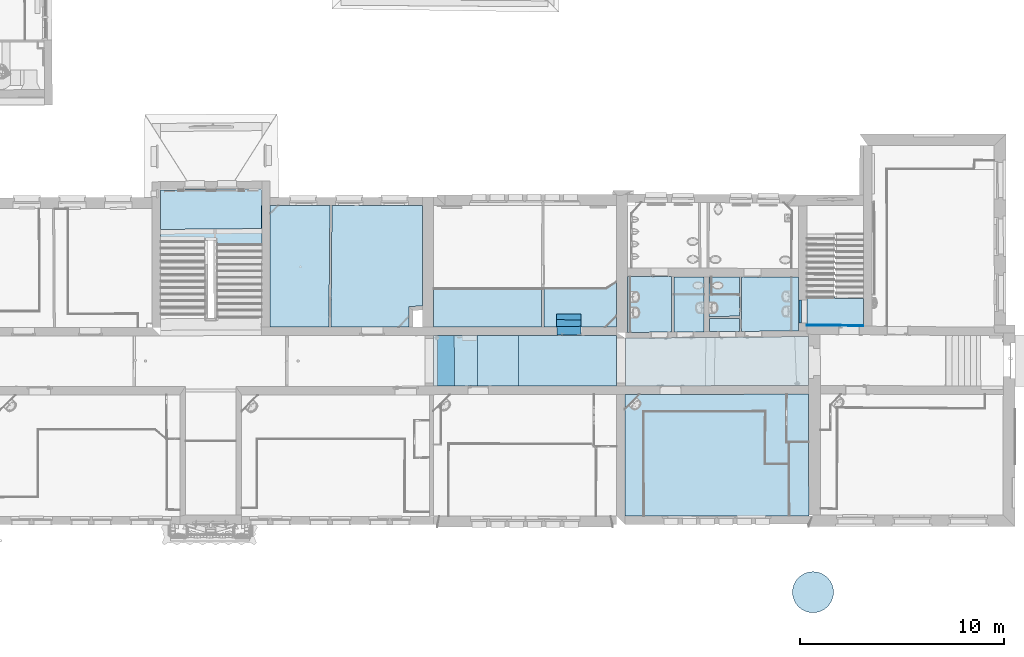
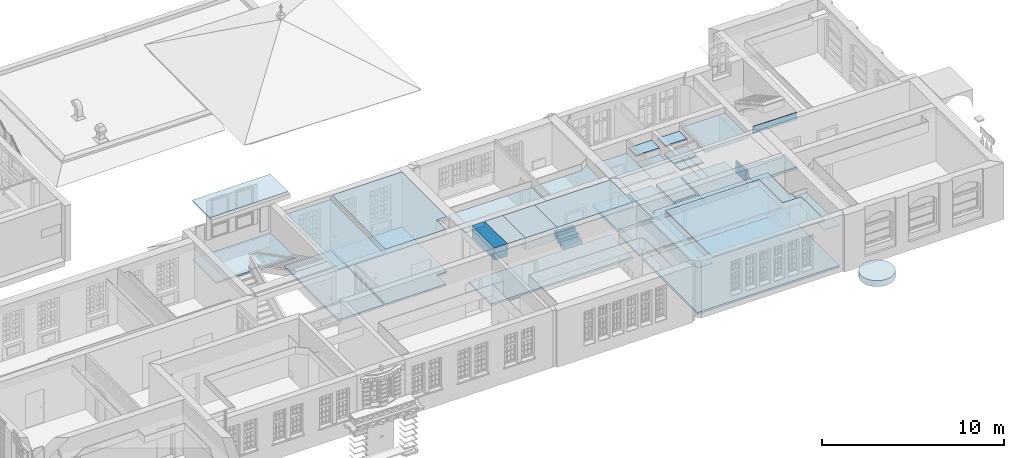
# One storey, part 12 of 158: 37 slabs.
"""IFC2X3 building model written with IfcOpenShell, lengths in metres."""

from ifc_helpers import new_model, entity, si_unit, converted_unit, derived_unit, money_unit, point, direction, frame, frame_2d, origin_with_axes, place, context, subcontext, project, spatial, polyline, circle_curve, parameter, trimmed, segment, composite_curve, outline, extrude, material, layer, layer_set, layer_usage, type_object, element, save


model = new_model("IFC2X3")

# Units and contexts
model_context = context("Model", 3, precision=1e-05, world=origin_with_axes(), true_north=direction((0.0, 1.0)))
body_context = subcontext(model_context, "Body", "Model", "MODEL_VIEW")
ifc_project = project(units=[si_unit("LENGTHUNIT", "METRE"), si_unit("AREAUNIT", "SQUARE_METRE"), si_unit("VOLUMEUNIT", "CUBIC_METRE"), converted_unit("PLANEANGLEUNIT", "DEGREE", entity("IfcPlaneAngleMeasure", 0.0174532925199), si_unit("PLANEANGLEUNIT", "RADIAN"), dimensions=[0, 0, 0, 0, 0, 0, 0]), money_unit("EUR"), converted_unit("TIMEUNIT", "Year", entity("IfcTimeMeasure", 31556926.0), si_unit("TIMEUNIT", "SECOND"), dimensions=[0, 0, 1, 0, 0, 0, 0]), si_unit("MASSUNIT", "GRAM", prefix="KILO"), si_unit("THERMODYNAMICTEMPERATUREUNIT", "DEGREE_CELSIUS"), si_unit("LUMINOUSINTENSITYUNIT", "LUMEN"), si_unit("ENERGYUNIT", "JOULE", prefix="MEGA"), derived_unit("THERMALCONDUCTANCEUNIT", [(si_unit("POWERUNIT", "WATT"), 1), (si_unit("LENGTHUNIT", "METRE"), -1), (si_unit("THERMODYNAMICTEMPERATUREUNIT", "KELVIN"), -1)]), derived_unit("SPECIFICHEATCAPACITYUNIT", [(si_unit("ENERGYUNIT", "JOULE"), 1), (si_unit("MASSUNIT", "GRAM", prefix="KILO"), -1), (si_unit("THERMODYNAMICTEMPERATUREUNIT", "KELVIN"), -1)]), derived_unit("MASSDENSITYUNIT", [(si_unit("MASSUNIT", "GRAM", prefix="KILO"), 1), (si_unit("VOLUMEUNIT", "CUBIC_METRE"), -1)])], contexts=[model_context])

# Site, building, storey
site_placement = place(None, origin_with_axes())
site = spatial("IfcSite", under=ifc_project, at=site_placement, Name="Gelände", CompositionType="ELEMENT")
building_placement = place(site_placement, origin_with_axes())
building = spatial("IfcBuilding", under=site, at=building_placement, Name="Gebäude", CompositionType="ELEMENT")
storey_placement = place(building_placement, origin_with_axes())
storey = spatial("IfcBuildingStorey", under=building, at=storey_placement, Name="ERDGESCHOSS", CompositionType="ELEMENT", Elevation=0.0)

# Slabs
ifc_material_1 = material(Name="05_ALLGEMEIN - TRAGENDE BAUTEILE")
ifc_layer_1 = layer(ifc_material_1, 0.03, ventilated="UNKNOWN")
ifc_layer_set_1 = layer_set([ifc_layer_1], Name="05_ALLGEMEIN - TRAGENDE BAUTEILE 0.03")
ifc_layer_usage_1 = layer_usage(ifc_layer_set_1, "AXIS3", "NEGATIVE", 0.03)
slab_type_1 = type_object("IfcSlabType", Name="05_ALLGEMEIN - TRAGENDE BAUTEILE 30", PredefinedType="NOTDEFINED")
slab_1_placement = place(storey_placement, frame((21.9802497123, 14.0316540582, 2.61), z_axis=(0.0, 0.0, 1.0), x_axis=(1.0, 0.0, 0.0)))
element("IfcSlab", 1, at=slab_1_placement, inside=storey, type_object=slab_type_1, material=ifc_layer_usage_1, Name="Belag-004", PredefinedType="NOTDEFINED", context=body_context, shape_type="SweptSolid", body=[
    extrude(outline(polyline([(0.0, 0.0), (-0.974729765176, -0.00682549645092), (-0.972453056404, -1.07772060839), (-0.967063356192, -3.6128444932), (0.0113714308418, -3.61221402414), (0.0, 0.0)])), origin_with_axes(), (0.0, 0.0, 1.0), 0.03),
])
ifc_material_2 = material(Name="01_ALLGEMEIN - BAUTEIL")
ifc_layer_2 = layer(ifc_material_2, 0.05, ventilated="UNKNOWN")
ifc_layer_set_2 = layer_set([ifc_layer_2], Name="01_ALLGEMEIN - BAUTEIL 0.05")
ifc_layer_usage_2 = layer_usage(ifc_layer_set_2, "AXIS3", "NEGATIVE", 0.05)
slab_type_2 = type_object("IfcSlabType", Name="01_ALLGEMEIN - BAUTEIL 50", PredefinedType="NOTDEFINED")
slab_2_placement = place(storey_placement, frame((12.962709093, 15.632430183, 2.86), z_axis=(0.0, 0.0, 1.0), x_axis=(1.0, 0.0, 0.0)))
element("IfcSlab", 2, at=slab_2_placement, inside=storey, type_object=slab_type_2, material=ifc_layer_usage_2, Name="Belag-004", PredefinedType="NOTDEFINED", context=body_context, shape_type="SweptSolid", body=[
    extrude(outline(polyline([(0.0, 0.0), (0.00476264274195, -5.2188052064), (0.938595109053, -5.21820340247), (0.924874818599, -0.0989423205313), (6.87745584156, -0.0890167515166), (6.85921746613, -2.67207263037), (8.04508757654, -2.67849670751), (8.04281091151, -1.60760159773), (7.91659896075, -1.60848548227), (7.92722859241, 0.765762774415), (0.730000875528, 0.75412518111), (0.0, 0.0)])), origin_with_axes(), (0.0, 0.0, 1.0), 0.05),
])
ifc_layer_usage_3 = layer_usage(ifc_layer_set_2, "AXIS3", "NEGATIVE", 0.05)
slab_3_placement = place(storey_placement, frame((13.8875839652, 15.5334878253, 3.29), z_axis=(0.0, 0.0, 1.0), x_axis=(1.0, 0.0, 0.0)))
element("IfcSlab", 3, at=slab_3_placement, inside=storey, type_object=slab_type_2, material=ifc_layer_usage_3, Name="Belag-004", PredefinedType="NOTDEFINED", context=body_context, shape_type="SweptSolid", body=[
    extrude(outline(polyline([(0.0, 0.0), (0.0137201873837, -5.11926109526), (7.12560237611, -5.11467826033), (7.12021270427, -2.57955437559), (5.93434262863, -2.57313021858), (5.95258097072, 0.00992562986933), (0.0, 0.0)])), origin_with_axes(), (0.0, 0.0, 1.0), 0.05),
])
ifc_layer_3 = layer(ifc_material_1, 0.32, ventilated="UNKNOWN")
ifc_layer_set_3 = layer_set([ifc_layer_3], Name="05_ALLGEMEIN - TRAGENDE BAUTEILE 0.32")
ifc_layer_usage_4 = layer_usage(ifc_layer_set_3, "AXIS3", "NEGATIVE", 0.32)
slab_type_3 = type_object("IfcSlabType", Name="05_ALLGEMEIN - TRAGENDE BAUTEILE 320", PredefinedType="NOTDEFINED")
slab_4_placement = place(storey_placement, frame((12.5468081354, 19.281202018, 3.28), z_axis=(0.0, 0.0, 1.0), x_axis=(1.0, 0.0, 0.0)))
element("IfcSlab", 4, at=slab_4_placement, inside=storey, type_object=slab_type_3, material=ifc_layer_usage_4, Name="Belag-004", PredefinedType="NOTDEFINED", context=body_context, shape_type="SweptSolid", body=[
    extrude(outline(polyline([(0.0, 0.0), (-4.81062728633, -0.00140048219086), (-4.8091364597, -2.48427514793), (0.00120351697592, -2.47649699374), (0.0, 0.0)])), origin_with_axes(), (0.0, 0.0, 1.0), 0.32),
])
ifc_layer_usage_5 = layer_usage(ifc_layer_set_3, "AXIS3", "NEGATIVE", 0.32)
slab_5_placement = place(storey_placement, frame((5.72062720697, 19.2792148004, 3.28), z_axis=(0.0, 0.0, 1.0), x_axis=(1.0, 0.0, 0.0)))
element("IfcSlab", 5, at=slab_5_placement, inside=storey, type_object=slab_type_3, material=ifc_layer_usage_5, Name="Belag-004", PredefinedType="NOTDEFINED", context=body_context, shape_type="SweptSolid", body=[
    extrude(outline(polyline([(0.0, 0.0), (-1.14277152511, -0.000332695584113), (-1.13752916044, -2.48738874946), (0.00454339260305, -2.48554205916), (0.0, 0.0)])), origin_with_axes(), (0.0, 0.0, 1.0), 0.32),
])
ifc_layer_4 = layer(ifc_material_1, 0.37, ventilated="UNKNOWN")
ifc_layer_set_4 = layer_set([ifc_layer_4], Name="05_ALLGEMEIN - TRAGENDE BAUTEILE 0.37")
ifc_layer_usage_6 = layer_usage(ifc_layer_set_4, "AXIS3", "NEGATIVE", 0.37)
slab_type_4 = type_object("IfcSlabType", Name="05_ALLGEMEIN - TRAGENDE BAUTEILE 370", PredefinedType="NOTDEFINED")
slab_6_placement = place(storey_placement, frame((-1.42464354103, 25.6654460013, 3.23), z_axis=(0.0, 0.0, 1.0), x_axis=(1.0, 0.0, 0.0)))
element("IfcSlab", 6, at=slab_6_placement, inside=storey, type_object=slab_type_4, material=ifc_layer_usage_6, Name="Belag-006", PredefinedType="NOTDEFINED", context=body_context, shape_type="SweptSolid", body=[
    extrude(outline(polyline([(0.0, 0.0), (-0.0531381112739, -5.97371125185), (3.78036971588, -5.9725952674), (3.77214632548, -4.95663853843), (4.44078514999, -4.94138410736), (4.44207747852, 0.00619752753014), (0.0, 0.0)])), origin_with_axes(), (0.0, 0.0, 1.0), 0.37),
])
ifc_layer_5 = layer(ifc_material_1, 0.82, ventilated="UNKNOWN")
ifc_layer_set_5 = layer_set([ifc_layer_5], Name="05_ALLGEMEIN - TRAGENDE BAUTEILE 0.82")
ifc_layer_usage_7 = layer_usage(ifc_layer_set_5, "AXIS3", "NEGATIVE", 0.82)
slab_type_5 = type_object("IfcSlabType", Name="05_ALLGEMEIN - TRAGENDE BAUTEILE 820", PredefinedType="NOTDEFINED")
slab_7_placement = place(storey_placement, frame((4.57785569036, 19.2788821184, 2.78), z_axis=(0.0, 0.0, 1.0), x_axis=(1.0, 0.0, 0.0)))
element("IfcSlab", 7, at=slab_7_placement, inside=storey, type_object=slab_type_5, material=ifc_layer_usage_7, Name="Belag-005", PredefinedType="NOTDEFINED", context=body_context, shape_type="SweptSolid", body=[
    extrude(outline(polyline([(0.0, 0.0), (-0.813372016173, -0.000236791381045), (-0.812640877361, -2.48837855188), (0.00524237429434, -2.48705606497), (0.0, 0.0)])), origin_with_axes(), (0.0, 0.0, 1.0), 0.82),
])
ifc_layer_usage_8 = layer_usage(ifc_layer_set_5, "AXIS3", "NEGATIVE", 0.82)
slab_8_placement = place(storey_placement, frame((5.72062720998, 19.2792147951, 2.78), z_axis=(0.0, 0.0, 1.0), x_axis=(1.0, 0.0, 0.0)))
element("IfcSlab", 8, at=slab_8_placement, inside=storey, type_object=slab_type_5, material=ifc_layer_usage_8, Name="Belag-005", PredefinedType="NOTDEFINED", context=body_context, shape_type="SweptSolid", body=[
    extrude(outline(polyline([(0.0, 0.0), (0.00454338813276, -2.485542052), (2.0170444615, -2.48228791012), (2.01555364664, 0.000586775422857), (0.0, 0.0)])), origin_with_axes(), (0.0, 0.0, 1.0), 0.82),
])
ifc_layer_6 = layer(ifc_material_1, 0.18, ventilated="UNKNOWN")
ifc_layer_set_6 = layer_set([ifc_layer_6], Name="05_ALLGEMEIN - TRAGENDE BAUTEILE 0.18")
ifc_layer_usage_9 = layer_usage(ifc_layer_set_6, "AXIS3", "NEGATIVE", 0.180000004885)
slab_type_6 = type_object("IfcSlabType", Name="05_ALLGEMEIN - TRAGENDE BAUTEILE 180", PredefinedType="NOTDEFINED")
slab_9_placement = place(storey_placement, frame((15.2507156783, 22.1650732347, -0.03), z_axis=(0.0, 0.0, 1.0), x_axis=(1.0, 0.0, 0.0)))
element("IfcSlab", 9, at=slab_9_placement, inside=storey, type_object=slab_type_6, material=ifc_layer_usage_9, Name="Belag-003", PredefinedType="NOTDEFINED", context=body_context, shape_type="SweptSolid", body=[
    extrude(outline(polyline([(0.0, 0.0), (-2.16106568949, 0.00861907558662), (-2.16042918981, -2.73549579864), (0.00536611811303, -2.71578927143), (0.0, 0.0)])), frame((0.0, 0.0, -0.180000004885), z_axis=(0.0, 0.0, 1.0), x_axis=(1.0, 0.0, 0.0)), (0.0, 0.0, 1.0), 0.180000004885),
])
ifc_layer_usage_10 = layer_usage(ifc_layer_set_6, "AXIS3", "NEGATIVE", 0.180000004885)
slab_10_placement = place(storey_placement, frame((16.8445187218, 22.1587166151, -0.03), z_axis=(0.0, 0.0, 1.0), x_axis=(1.0, 0.0, 0.0)))
element("IfcSlab", 10, at=slab_10_placement, inside=storey, type_object=slab_type_6, material=ifc_layer_usage_10, Name="Belag-004", PredefinedType="NOTDEFINED", context=body_context, shape_type="SweptSolid", body=[
    extrude(outline(polyline([(0.0, 0.0), (-1.48183315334, 0.00591005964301), (-1.47646993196, -2.70841385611), (0.00905494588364, -2.69489708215), (0.0, 0.0)])), frame((0.0, 0.0, -0.180000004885), z_axis=(0.0, 0.0, 1.0), x_axis=(1.0, 0.0, 0.0)), (0.0, 0.0, 1.0), 0.180000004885),
])
ifc_layer_usage_11 = layer_usage(ifc_layer_set_6, "AXIS3", "NEGATIVE", 0.180000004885)
slab_11_placement = place(storey_placement, frame((18.6754865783, 19.4803970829, -0.03), z_axis=(0.0, 0.0, 1.0), x_axis=(1.0, 0.0, 0.0)))
element("IfcSlab", 11, at=slab_11_placement, inside=storey, type_object=slab_type_6, material=ifc_layer_usage_11, Name="Belag-005", PredefinedType="NOTDEFINED", context=body_context, shape_type="SweptSolid", body=[
    extrude(outline(polyline([(0.0, 0.0), (2.80840213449, 0.0255536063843), (2.81183693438, 2.65980246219), (0.00871867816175, 2.67098224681), (0.0, 0.0)])), frame((0.0, 0.0, -0.180000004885), z_axis=(0.0, 0.0, 1.0), x_axis=(1.0, 0.0, 0.0)), (0.0, 0.0, 1.0), 0.180000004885),
])
ifc_layer_usage_12 = layer_usage(ifc_layer_set_6, "AXIS3", "NEGATIVE", 0.180000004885)
slab_12_placement = place(storey_placement, frame((17.0945234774, 22.1577195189, -0.03), z_axis=(0.0, 0.0, 1.0), x_axis=(1.0, 0.0, 0.0)))
element("IfcSlab", 12, at=slab_12_placement, inside=storey, type_object=slab_type_6, material=ifc_layer_usage_12, Name="Belag-006", PredefinedType="NOTDEFINED", context=body_context, shape_type="SweptSolid", body=[
    extrude(outline(polyline([(0.0, 0.0), (0.00652252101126, -1.9412129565), (1.48340727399, -1.92837856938), (1.48968255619, -0.00594134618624), (0.0, 0.0)])), frame((0.0, 0.0, -0.180000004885), z_axis=(0.0, 0.0, 1.0), x_axis=(1.0, 0.0, 0.0)), (0.0, 0.0, 1.0), 0.180000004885),
])
ifc_layer_usage_13 = layer_usage(ifc_layer_set_6, "AXIS3", "NEGATIVE", 0.180000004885)
slab_13_placement = place(storey_placement, frame((18.5775652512, 20.1173647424, -0.03), z_axis=(0.0, 0.0, 1.0), x_axis=(1.0, 0.0, 0.0)))
element("IfcSlab", 13, at=slab_13_placement, inside=storey, type_object=slab_type_6, material=ifc_layer_usage_13, Name="Belag-007", PredefinedType="NOTDEFINED", context=body_context, shape_type="SweptSolid", body=[
    extrude(outline(polyline([(0.0, 0.0), (-1.47614302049, -0.012827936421), (-1.47399783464, -0.651270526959), (-0.00208216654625, -0.637877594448), (0.0, 0.0)])), frame((0.0, 0.0, -0.180000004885), z_axis=(0.0, 0.0, 1.0), x_axis=(1.0, 0.0, 0.0)), (0.0, 0.0, 1.0), 0.180000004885),
])
ifc_layer_7 = layer(ifc_material_1, 0.155000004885, ventilated="UNKNOWN")
ifc_layer_set_7 = layer_set([ifc_layer_7], Name="05_ALLGEMEIN - TRAGENDE BAUTEILE 0.155")
ifc_layer_usage_14 = layer_usage(ifc_layer_set_7, "AXIS3", "NEGATIVE", 0.155000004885)
slab_type_7 = type_object("IfcSlabType", Name="05_ALLGEMEIN - TRAGENDE BAUTEILE 155", PredefinedType="NOTDEFINED")
slab_14_placement = place(storey_placement, frame((21.8942238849, 19.762736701, -0.055), z_axis=(0.0, 0.0, 1.0), x_axis=(1.0, 0.0, 0.0)))
element("IfcSlab", 14, at=slab_14_placement, inside=storey, type_object=slab_type_7, material=ifc_layer_usage_14, Name="Belag-003", PredefinedType="NOTDEFINED", context=body_context, shape_type="SweptSolid", body=[
    extrude(outline(polyline([(0.0, 0.0), (2.77763764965, -0.0233686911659), (2.77783908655, 1.34125444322), (1.3888431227, 1.33075723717), (1.38951554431, 1.40848259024), (0.00183888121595, 1.41029198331), (0.0, 0.0)])), frame((0.0, 0.0, -0.155000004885), z_axis=(0.0, 0.0, 1.0), x_axis=(1.0, 0.0, 0.0)), (0.0, 0.0, 1.0), 0.155000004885),
])
ifc_layer_8 = layer(ifc_material_1, 0.14, ventilated="UNKNOWN")
ifc_layer_set_8 = layer_set([ifc_layer_8], Name="05_ALLGEMEIN - TRAGENDE BAUTEILE 0.14")
ifc_layer_usage_15 = layer_usage(ifc_layer_set_8, "AXIS3", "NEGATIVE", 0.14)
slab_type_8 = type_object("IfcSlabType", Name="05_ALLGEMEIN - TRAGENDE BAUTEILE 140", PredefinedType="NOTDEFINED")
slab_15_placement = place(storey_placement, frame((21.9638840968, 19.2303066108, -0.07), z_axis=(0.0, 0.0, 1.0), x_axis=(1.0, 0.0, 0.0)))
element("IfcSlab", 15, at=slab_15_placement, inside=storey, type_object=slab_type_8, material=ifc_layer_usage_15, Name="Belag-003", PredefinedType="NOTDEFINED", context=body_context, shape_type="SweptSolid", body=[
    extrude(outline(polyline([(0.0, 0.0), (-8.98612700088, -0.0817646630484), (-8.98498825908, -2.42490489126), (0.00758790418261, -2.41036418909), (0.0, 0.0)])), frame((0.0, 0.0, -0.14), z_axis=(0.0, 0.0, 1.0), x_axis=(1.0, 0.0, 0.0)), (0.0, 0.0, 1.0), 0.14),
])
ifc_layer_usage_16 = layer_usage(ifc_layer_set_8, "AXIS3", "NEGATIVE", 0.14)
slab_16_placement = place(storey_placement, frame((12.5468081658, 19.2812020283, -0.07), z_axis=(0.0, 0.0, 1.0), x_axis=(1.0, 0.0, 0.0)))
element("IfcSlab", 16, at=slab_16_placement, inside=storey, type_object=slab_type_8, material=ifc_layer_usage_16, Name="Belag-004", PredefinedType="NOTDEFINED", context=body_context, shape_type="SweptSolid", body=[
    extrude(outline(polyline([(0.0, 0.0), (-8.98461540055, -0.0026155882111), (-8.98060364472, -2.49102025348), (0.00120348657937, -2.47649700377), (0.0, 0.0)])), frame((0.0, 0.0, -0.14), z_axis=(0.0, 0.0, 1.0), x_axis=(1.0, 0.0, 0.0)), (0.0, 0.0, 1.0), 0.14),
])
ifc_layer_9 = layer(ifc_material_1, 0.830188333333, ventilated="UNKNOWN")
ifc_layer_set_9 = layer_set([ifc_layer_9], Name="05_ALLGEMEIN - TRAGENDE BAUTEILE 0.830188")
ifc_layer_usage_17 = layer_usage(ifc_layer_set_9, "AXIS3", "NEGATIVE", 0.830188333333)
slab_type_9 = type_object("IfcSlabType", Name="05_ALLGEMEIN - TRAGENDE BAUTEILE 830", PredefinedType="NOTDEFINED")
slab_17_placement = place(storey_placement, frame((21.4996975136, 21.0243434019, 0.675188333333), z_axis=(0.0, 0.0, 1.0), x_axis=(1.0, 0.0, 0.0)))
element("IfcSlab", 17, at=slab_17_placement, inside=storey, type_object=slab_type_9, material=ifc_layer_usage_17, Name="Belag-003", PredefinedType="NOTDEFINED", context=body_context, shape_type="SweptSolid", body=[
    extrude(outline(polyline([(0.0, 0.0), (-0.00147217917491, -1.12905742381), (0.139275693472, -1.12924094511), (0.138257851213, -0.000180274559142), (0.0, 0.0)])), frame((0.0, 0.0, -0.830188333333), z_axis=(0.0, 0.0, 1.0), x_axis=(1.0, 0.0, 0.0)), (0.0, 0.0, 1.0), 0.830188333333),
])
ifc_layer_10 = layer(ifc_material_1, 0.1, ventilated="UNKNOWN")
ifc_layer_set_10 = layer_set([ifc_layer_10], Name="05_ALLGEMEIN - TRAGENDE BAUTEILE 0.1")
ifc_layer_usage_18 = layer_usage(ifc_layer_set_10, "AXIS3", "NEGATIVE", 0.1)
slab_type_10 = type_object("IfcSlabType", Name="05_ALLGEMEIN - TRAGENDE BAUTEILE 100", PredefinedType="NOTDEFINED")
slab_18_placement = place(storey_placement, frame((8.97528230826, 21.6021981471, 2.885), z_axis=(0.0, 0.0, 1.0), x_axis=(1.0, 0.0, 0.0)))
element("IfcSlab", 18, at=slab_18_placement, inside=storey, type_object=slab_type_10, material=ifc_layer_usage_18, Name="Belag-004", PredefinedType="NOTDEFINED", context=body_context, shape_type="SweptSolid", body=[
    extrude(outline(polyline([(0.0, 0.0), (-0.00033825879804, -1.90742037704), (3.56494241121, -1.90638243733), (3.56442591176, 0.320481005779), (3.05242019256, 0.00509624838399), (0.0, 0.0)])), origin_with_axes(), (0.0, 0.0, 1.0), 0.1),
])
ifc_layer_usage_19 = layer_usage(ifc_layer_set_10, "AXIS3", "NEGATIVE", 0.1)
slab_19_placement = place(storey_placement, frame((3.5663674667, 21.5886652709, 2.875), z_axis=(0.0, 0.0, 1.0), x_axis=(1.0, 0.0, 0.0)))
element("IfcSlab", 19, at=slab_19_placement, inside=storey, type_object=slab_type_10, material=ifc_layer_usage_19, Name="Belag-004", PredefinedType="NOTDEFINED", context=body_context, shape_type="SweptSolid", body=[
    extrude(outline(polyline([(0.0, 0.0), (-0.000495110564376, -1.89546220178), (5.30857657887, -1.89391658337), (5.3089129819, 0.00312145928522), (0.0, 0.0)])), origin_with_axes(), (0.0, 0.0, 1.0), 0.1),
])
ifc_layer_usage_20 = layer_usage(ifc_layer_set_10, "AXIS3", "NEGATIVE", 0.1)
slab_20_placement = place(storey_placement, frame((15.2507156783, 22.1650732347, 2.6), z_axis=(0.0, 0.0, 1.0), x_axis=(1.0, 0.0, 0.0)))
element("IfcSlab", 20, at=slab_20_placement, inside=storey, type_object=slab_type_10, material=ifc_layer_usage_20, Name="Belag-004", PredefinedType="NOTDEFINED", context=body_context, shape_type="SweptSolid", body=[
    extrude(outline(polyline([(0.0, 0.0), (-2.02476242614, 0.00807545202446), (-2.01645687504, -2.73418579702), (0.00536611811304, -2.71578927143), (0.0, 0.0)])), origin_with_axes(), (0.0, 0.0, 1.0), 0.1),
])
ifc_layer_usage_21 = layer_usage(ifc_layer_set_10, "AXIS3", "NEGATIVE", 0.1)
slab_21_placement = place(storey_placement, frame((18.6842052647, 22.1513793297, 3.13), z_axis=(0.0, 0.0, 1.0), x_axis=(1.0, 0.0, 0.0)))
element("IfcSlab", 21, at=slab_21_placement, inside=storey, type_object=slab_type_10, material=ifc_layer_usage_21, Name="Belag-004", PredefinedType="NOTDEFINED", context=body_context, shape_type="SweptSolid", body=[
    extrude(outline(polyline([(0.0, 0.0), (-0.00871868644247, -2.67098224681), (2.79968344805, -2.64542864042), (2.80311824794, -0.0111797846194), (0.0, 0.0)])), origin_with_axes(), (0.0, 0.0, 1.0), 0.1),
])
ifc_layer_usage_22 = layer_usage(ifc_layer_set_10, "AXIS3", "NEGATIVE", 0.1)
slab_22_placement = place(storey_placement, frame((15.3626855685, 22.1646266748, 2.92), z_axis=(0.0, 0.0, 1.0), x_axis=(1.0, 0.0, 0.0)))
element("IfcSlab", 22, at=slab_22_placement, inside=storey, type_object=slab_type_10, material=ifc_layer_usage_22, Name="Belag-005", PredefinedType="NOTDEFINED", context=body_context, shape_type="SweptSolid", body=[
    extrude(outline(polyline([(0.0, 0.0), (0.00168878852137, -0.854694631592), (1.4846914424, -0.856585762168), (1.48183314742, -0.00591005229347), (0.0, 0.0)])), origin_with_axes(), (0.0, 0.0, 1.0), 0.1),
])
ifc_layer_usage_23 = layer_usage(ifc_layer_set_10, "AXIS3", "NEGATIVE", 0.1)
slab_23_placement = place(storey_placement, frame((-4.46252305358, 25.6612076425, 3.24), z_axis=(0.0, 0.0, 1.0), x_axis=(1.0, 0.0, 0.0)))
element("IfcSlab", 23, at=slab_23_placement, inside=storey, type_object=slab_type_10, material=ifc_layer_usage_23, Name="Belag-005", PredefinedType="NOTDEFINED", context=body_context, shape_type="SweptSolid", body=[
    extrude(outline(polyline([(0.0, 0.0), (-0.0026324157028, -5.97034258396), (2.88473723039, -5.96950199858), (2.93787429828, 0.00409885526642), (0.0, 0.0)])), origin_with_axes(), (0.0, 0.0, 1.0), 0.1),
])
ifc_layer_usage_24 = layer_usage(ifc_layer_set_10, "AXIS3", "NEGATIVE", 0.1)
slab_24_placement = place(storey_placement, frame((-9.84215545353, 26.4304836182, 1.81), z_axis=(0.0, 0.0, 1.0), x_axis=(1.0, 0.0, 0.0)))
element("IfcSlab", 24, at=slab_24_placement, inside=storey, type_object=slab_type_10, material=ifc_layer_usage_24, Name="Belag-005", PredefinedType="NOTDEFINED", context=body_context, shape_type="SweptSolid", body=[
    extrude(outline(polyline([(0.0, 0.0), (0.000245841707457, -2.61162387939), (2.21557330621, -2.60759612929), (2.21530787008, -2.44940877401), (2.78271909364, -2.45595198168), (2.78377425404, -2.71492820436), (4.96877405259, -2.7158916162), (4.96963206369, -0.769847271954), (4.96448754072, -0.769855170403), (4.96392944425, -0.369855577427), (4.96392944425, 0.0264165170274), (0.0, 0.0)])), frame((0.0, 0.0, -0.1), z_axis=(0.0, 0.0, 1.0), x_axis=(1.0, 0.0, 0.0)), (0.0, 0.0, 1.0), 0.1),
])
ifc_layer_usage_25 = layer_usage(ifc_layer_set_10, "AXIS3", "NEGATIVE", 0.1)
slab_25_placement = place(storey_placement, frame((-4.87822600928, 26.4569001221, 5.64), z_axis=(0.0, 0.0, 1.0), x_axis=(1.0, 0.0, 0.0)))
element("IfcSlab", 25, at=slab_25_placement, inside=storey, type_object=slab_type_10, material=ifc_layer_usage_25, Name="Belag-005", PredefinedType="NOTDEFINED", context=body_context, shape_type="SweptSolid", body=[
    extrude(outline(polyline([(0.0, 0.0), (-4.96392944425, -0.0264165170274), (-4.96374649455, -1.97019454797), (0.000204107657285, -1.92692631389), (0.000702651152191, -0.796271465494), (0.000558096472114, -0.79627168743), (0.0, -0.396272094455), (0.0, 0.0)])), origin_with_axes(), (0.0, 0.0, 1.0), 0.1),
])
ifc_layer_usage_26 = layer_usage(ifc_layer_set_10, "AXIS3", "NEGATIVE", 0.1)
slab_26_placement = place(storey_placement, frame((16.847377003, 21.3080409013, 2.46), z_axis=(0.0, 0.0, 1.0), x_axis=(1.0, 0.0, 0.0)))
element("IfcSlab", 26, at=slab_26_placement, inside=storey, type_object=slab_type_10, material=ifc_layer_usage_26, Name="Belag-006", PredefinedType="NOTDEFINED", context=body_context, shape_type="SweptSolid", body=[
    extrude(outline(polyline([(0.0, 0.0), (-1.48300264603, 0.00189114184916), (-1.47932821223, -1.85773814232), (0.00619665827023, -1.84422138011), (0.0, 0.0)])), origin_with_axes(), (0.0, 0.0, 1.0), 0.1),
])
ifc_layer_usage_27 = layer_usage(ifc_layer_set_10, "AXIS3", "NEGATIVE", 0.1)
slab_27_placement = place(storey_placement, frame((17.2191100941, 21.3079030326, 2.46), z_axis=(0.0, 0.0, 1.0), x_axis=(1.0, 0.0, 0.0)))
element("IfcSlab", 27, at=slab_27_placement, inside=storey, type_object=slab_type_10, material=ifc_layer_usage_27, Name="Belag-007", PredefinedType="NOTDEFINED", context=body_context, shape_type="SweptSolid", body=[
    extrude(outline(polyline([(0.0, 0.0), (0.000755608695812, -0.0509412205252), (-0.121579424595, -0.0451734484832), (-0.118064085, -1.09139647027), (1.35882067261, -1.07856207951), (1.36230730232, -0.0104280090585), (0.0, 0.0)])), origin_with_axes(), (0.0, 0.0, 1.0), 0.1),
])
ifc_layer_usage_28 = layer_usage(ifc_layer_set_10, "AXIS3", "NEGATIVE", 0.1)
slab_28_placement = place(storey_placement, frame((18.5775652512, 20.1173647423, 2.46), z_axis=(0.0, 0.0, 1.0), x_axis=(1.0, 0.0, 0.0)))
element("IfcSlab", 28, at=slab_28_placement, inside=storey, type_object=slab_type_10, material=ifc_layer_usage_28, Name="Belag-007", PredefinedType="NOTDEFINED", context=body_context, shape_type="SweptSolid", body=[
    extrude(outline(polyline([(0.0, 0.0), (-1.47614302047, -0.0128279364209), (-1.47399783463, -0.651270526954), (-0.00208216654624, -0.637877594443), (0.0, 0.0)])), origin_with_axes(), (0.0, 0.0, 1.0), 0.1),
])
ifc_layer_usage_29 = layer_usage(ifc_layer_set_10, "AXIS3", "NEGATIVE", 0.1)
slab_29_placement = place(storey_placement, frame((17.2152791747, 22.1572379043, 2.92), z_axis=(0.0, 0.0, 1.0), x_axis=(1.0, 0.0, 0.0)))
element("IfcSlab", 29, at=slab_29_placement, inside=storey, type_object=slab_type_10, material=ifc_layer_usage_29, Name="Belag-007", PredefinedType="NOTDEFINED", context=body_context, shape_type="SweptSolid", body=[
    extrude(outline(polyline([(0.0, 0.0), (0.00383091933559, -0.849334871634), (1.36613822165, -0.859762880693), (1.36892685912, -0.00545974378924), (0.0, 0.0)])), origin_with_axes(), (0.0, 0.0, 1.0), 0.1),
])
ifc_layer_11 = layer(ifc_material_1, 0.13, ventilated="UNKNOWN")
ifc_layer_set_11 = layer_set([ifc_layer_11], Name="05_ALLGEMEIN - TRAGENDE BAUTEILE 0.13")
ifc_layer_usage_30 = layer_usage(ifc_layer_set_11, "AXIS3", "NEGATIVE", 0.13)
slab_type_11 = type_object("IfcSlabType", Name="05_ALLGEMEIN - TRAGENDE BAUTEILE 130", PredefinedType="NOTDEFINED")
slab_30_placement = place(storey_placement, frame((12.9620219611, 16.3853738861, -0.08), z_axis=(0.0, 0.0, 1.0), x_axis=(1.0, 0.0, 0.0)))
element("IfcSlab", 30, at=slab_30_placement, inside=storey, type_object=slab_type_11, material=ifc_layer_usage_30, Name="Belag-003", PredefinedType="NOTDEFINED", context=body_context, shape_type="SweptSolid", body=[
    extrude(outline(polyline([(0.0, 0.0), (0.00544978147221, -5.97174890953), (9.02959919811, -5.96593382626), (9.01077221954, 0.0145700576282), (0.0, 0.0)])), frame((0.0, 0.0, -0.13), z_axis=(0.0, 0.0, 1.0), x_axis=(1.0, 0.0, 0.0)), (0.0, 0.0, 1.0), 0.13),
])
ifc_layer_usage_31 = layer_usage(ifc_layer_set_11, "AXIS3", "NEGATIVE", 0.13)
slab_31_placement = place(storey_placement, frame((-4.4625230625, 25.6612076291, -0.08), z_axis=(0.0, 0.0, 1.0), x_axis=(1.0, 0.0, 0.0)))
element("IfcSlab", 31, at=slab_31_placement, inside=storey, type_object=slab_type_11, material=ifc_layer_usage_31, Name="Belag-005", PredefinedType="NOTDEFINED", context=body_context, shape_type="SweptSolid", body=[
    extrude(outline(polyline([(0.0, 0.0), (-0.0026324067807, -5.97034257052), (2.88473719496, -5.96950199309), (2.93787429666, 0.00409886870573), (0.0, 0.0)])), frame((0.0, 0.0, -0.13), z_axis=(0.0, 0.0, 1.0), x_axis=(1.0, 0.0, 0.0)), (0.0, 0.0, 1.0), 0.13),
])
ifc_layer_usage_32 = layer_usage(ifc_layer_set_11, "AXIS3", "NEGATIVE", 0.13)
slab_32_placement = place(storey_placement, frame((-1.42464356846, 25.6654460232, -0.08), z_axis=(0.0, 0.0, 1.0), x_axis=(1.0, 0.0, 0.0)))
element("IfcSlab", 32, at=slab_32_placement, inside=storey, type_object=slab_type_11, material=ifc_layer_usage_32, Name="Belag-006", PredefinedType="NOTDEFINED", context=body_context, shape_type="SweptSolid", body=[
    extrude(outline(polyline([(0.0, 0.0), (-0.0531380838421, -5.97371127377), (3.78036973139, -5.97259525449), (3.77214632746, -4.9566385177), (4.44078516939, -4.94138412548), (4.4420774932, 0.0061975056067), (0.0, 0.0)])), frame((0.0, 0.0, -0.13), z_axis=(0.0, 0.0, 1.0), x_axis=(1.0, 0.0, 0.0)), (0.0, 0.0, 1.0), 0.13),
])
ifc_layer_12 = layer(ifc_material_1, 0.48, ventilated="UNKNOWN")
ifc_layer_set_12 = layer_set([ifc_layer_12], Name="05_ALLGEMEIN - TRAGENDE BAUTEILE 0.48")
ifc_layer_usage_33 = layer_usage(ifc_layer_set_12, "AXIS3", "NEGATIVE", 0.48)
slab_type_12 = type_object("IfcSlabType", Name="05_ALLGEMEIN - TRAGENDE BAUTEILE 480", PredefinedType="NOTDEFINED")
slab_33_placement = place(storey_placement, frame((21.8942864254, 19.810711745, 3.12), z_axis=(0.0, 0.0, 1.0), x_axis=(1.0, 0.0, 0.0)))
element("IfcSlab", 33, at=slab_33_placement, inside=storey, type_object=slab_type_12, material=ifc_layer_usage_33, Name="Belag-004", PredefinedType="NOTDEFINED", context=body_context, shape_type="SweptSolid", body=[
    extrude(outline(polyline([(0.0, 0.0), (-6.25405432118e-05, -0.0479750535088), (2.77757510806, -0.0713437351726), (2.77758193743, -0.0250856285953), (0.0, 0.0)])), origin_with_axes(), (0.0, 0.0, 1.0), 0.48),
])
ifc_layer_13 = layer(ifc_material_1, 0.315, ventilated="UNKNOWN")
ifc_layer_set_13 = layer_set([ifc_layer_13], Name="05_ALLGEMEIN - TRAGENDE BAUTEILE 0.315")
ifc_layer_usage_34 = layer_usage(ifc_layer_set_13, "AXIS3", "NEGATIVE", 0.315)
slab_type_13 = type_object("IfcSlabType", Name="05_ALLGEMEIN - TRAGENDE BAUTEILE 315", PredefinedType="NOTDEFINED")
slab_34_placement = place(storey_placement, frame((10.7974244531, 19.7343368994, 0.145), z_axis=(0.0, 0.0, 1.0), x_axis=(1.0, 0.0, 0.0)))
element("IfcSlab", 34, at=slab_34_placement, inside=storey, type_object=slab_type_13, material=ifc_layer_usage_34, Name="Belag-008", PredefinedType="NOTDEFINED", context=body_context, shape_type="SweptSolid", body=[
    extrude(outline(polyline([(0.0, 0.0), (-1.1862149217, -0.00521167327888), (-1.17748270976, -0.430337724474), (0.00249827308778, -0.415136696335), (0.000234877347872, -0.0390284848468), (0.0, 0.0)])), frame((0.0, 0.0, -0.315), z_axis=(0.0, 0.0, 1.0), x_axis=(1.0, 0.0, 0.0)), (0.0, 0.0, 1.0), 0.315),
])
ifc_layer_14 = layer(ifc_material_1, 0.3725, ventilated="UNKNOWN")
ifc_layer_set_14 = layer_set([ifc_layer_14], Name="05_ALLGEMEIN - TRAGENDE BAUTEILE 0.3725")
ifc_layer_usage_35 = layer_usage(ifc_layer_set_14, "AXIS3", "NEGATIVE", 0.3725)
slab_type_14 = type_object("IfcSlabType", Name="05_ALLGEMEIN - TRAGENDE BAUTEILE 373", PredefinedType="NOTDEFINED")
slab_35_placement = place(storey_placement, frame((10.7955280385, 20.0494677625, 0.36), z_axis=(0.0, 0.0, 1.0), x_axis=(1.0, 0.0, 0.0)))
element("IfcSlab", 35, at=slab_35_placement, inside=storey, type_object=slab_type_14, material=ifc_layer_usage_35, Name="Belag-009", PredefinedType="NOTDEFINED", context=body_context, shape_type="SweptSolid", body=[
    extrude(outline(polyline([(0.0, 0.0), (-1.1910120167, 0.00553077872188), (-1.18431850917, -0.320342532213), (0.0018964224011, -0.315130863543), (0.0, 0.0)])), frame((0.0, 0.0, -0.3725), z_axis=(0.0, 0.0, 1.0), x_axis=(1.0, 0.0, 0.0)), (0.0, 0.0, 1.0), 0.3725),
])
ifc_layer_15 = layer(ifc_material_1, 0.38625, ventilated="UNKNOWN")
ifc_layer_set_15 = layer_set([ifc_layer_15], Name="05_ALLGEMEIN - TRAGENDE BAUTEILE 0.38625")
ifc_layer_usage_36 = layer_usage(ifc_layer_set_15, "AXIS3", "NEGATIVE", 0.38625)
slab_type_15 = type_object("IfcSlabType", Name="05_ALLGEMEIN - TRAGENDE BAUTEILE 386", PredefinedType="NOTDEFINED")
slab_36_placement = place(storey_placement, frame((10.7937917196, 20.3379964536, 0.56), z_axis=(0.0, 0.0, 1.0), x_axis=(1.0, 0.0, 0.0)))
element("IfcSlab", 36, at=slab_36_placement, inside=storey, type_object=slab_type_15, material=ifc_layer_usage_36, Name="Belag-010", PredefinedType="NOTDEFINED", context=body_context, shape_type="SweptSolid", body=[
    extrude(outline(polyline([(0.0, 0.0), (-1.19518691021, 0.00478850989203), (-1.18927572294, -0.282997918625), (0.00173632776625, -0.288528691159), (0.0, 0.0)])), frame((0.0, 0.0, -0.38625), z_axis=(0.0, 0.0, 1.0), x_axis=(1.0, 0.0, 0.0)), (0.0, 0.0, 1.0), 0.38625),
])
ifc_layer_16 = layer(ifc_material_1, 0.4, ventilated="UNKNOWN")
ifc_layer_set_16 = layer_set([ifc_layer_16], Name="05_ALLGEMEIN - TRAGENDE BAUTEILE 0.4")
ifc_layer_usage_37 = layer_usage(ifc_layer_set_16, "AXIS3", "NEGATIVE", 0.4)
slab_type_16 = type_object("IfcSlabType", Name="05_ALLGEMEIN - TRAGENDE BAUTEILE 400", PredefinedType="NOTDEFINED")
slab_37_placement = place(storey_placement, frame((23.0245767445, 7.24361396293, 1.79957866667), z_axis=(0.0, 0.0, 1.0), x_axis=(1.0, 0.0, 0.0)))
element("IfcSlab", 37, at=slab_37_placement, inside=storey, type_object=slab_type_16, material=ifc_layer_usage_37, Name="Belag-017", PredefinedType="NOTDEFINED", context=body_context, shape_type="SweptSolid", body=[
    extrude(outline(composite_curve([segment(trimmed(circle_curve(frame_2d((-0.82909036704, -0.569901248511), x_axis=(0.824087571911, 0.566462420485)), 1.00607070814), [point((0.0, 0.0)), parameter(0.0)], [point((-1.26216879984, -1.4779878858)), parameter(209.999007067)], True, "CARTESIAN"), True, "CONTINUOUS"), segment(trimmed(circle_curve(frame_2d((-0.82909036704, -0.569901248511), x_axis=(-0.430465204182, -0.902607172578)), 1.00607070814), [point((-1.26216879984, -1.4779878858)), parameter(0.0)], [point((0.0, 0.0)), parameter(150.000992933)], True, "CARTESIAN"), True, "CONTINUOUS")], self_intersect=False)), frame((0.0, 0.0, -0.4), z_axis=(0.0, 0.0, 1.0), x_axis=(1.0, 0.0, 0.0)), (0.0, 0.0, 1.0), 0.4),
])

save(model, "model.ifc")
